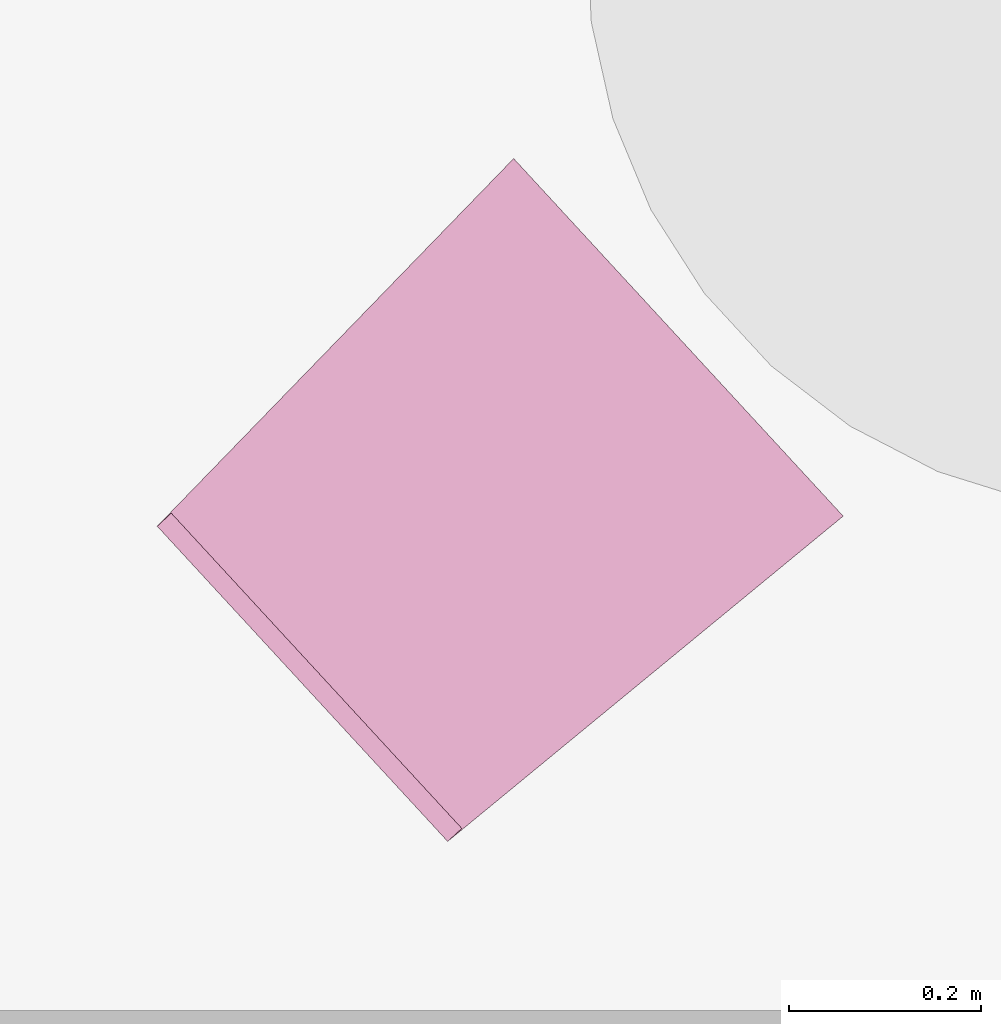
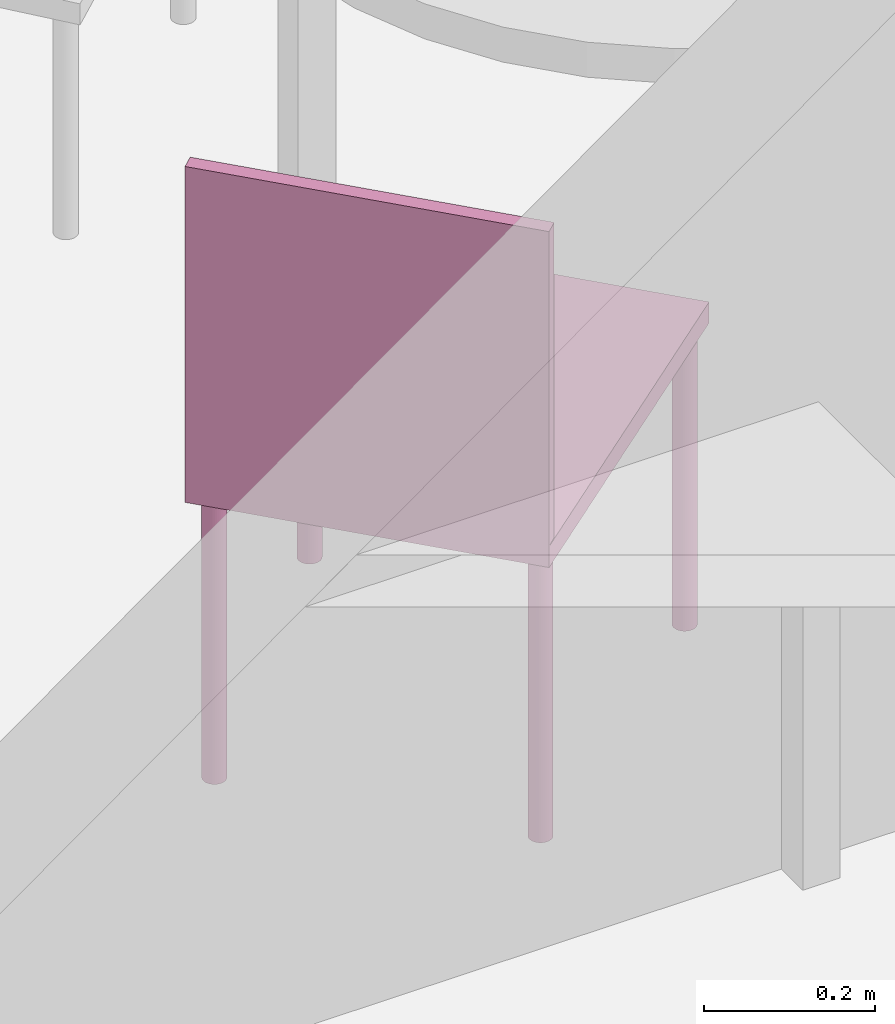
"""IFC4 building model written with IfcOpenShell, lengths in metres."""

from ifc_helpers import new_model, entity, si_unit, converted_unit, derived_unit, frame, origin, place, context, subcontext, project, spatial, faceted_brep, element, save


model = new_model("IFC4")

# Units and contexts
model_context = context("Model", 3, precision=1e-05, world=origin())
body_context = subcontext(model_context, "Body", "Model", "MODEL_VIEW")
ifc_project = project(units=[si_unit("LENGTHUNIT", "METRE"), si_unit("AREAUNIT", "SQUARE_METRE"), si_unit("VOLUMEUNIT", "CUBIC_METRE"), si_unit("MASSUNIT", "GRAM", prefix="KILO"), converted_unit("PLANEANGLEUNIT", "DEGREE", entity("IfcPlaneAngleMeasure", 0.0174532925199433), si_unit("PLANEANGLEUNIT", "RADIAN"), dimensions=[0, 0, 0, 0, 0, 0, 0]), derived_unit("THERMALTRANSMITTANCEUNIT", [(si_unit("POWERUNIT", "WATT"), 1), (si_unit("THERMODYNAMICTEMPERATUREUNIT", "KELVIN"), -1), (si_unit("LENGTHUNIT", "METRE"), -2)]), derived_unit("VOLUMETRICFLOWRATEUNIT", [(si_unit("LENGTHUNIT", "METRE"), 3), (converted_unit("TIMEUNIT", "hour", entity("IfcTimeMeasure", 3600.0), si_unit("TIMEUNIT", "SECOND"), dimensions=[0, 0, 1, 0, 0, 0, 0]), -1), (si_unit("LENGTHUNIT", "METRE"), -1)])], contexts=[model_context])

# Building, storeys
building_placement = place(None, origin())
building = spatial("IfcBuilding", under=ifc_project, at=building_placement, Name="HABITATGE PLURIFAMILIAR", CompositionType="ELEMENT")
storey_1_placement = place(building_placement, frame((0.0, 0.0, 12.27)))
storey_1 = spatial("IfcBuildingStorey", under=building, at=storey_1_placement, Name="PLANTA TERCERA", CompositionType="ELEMENT", Elevation=12.27)
storey_2_placement = place(storey_1_placement, frame((0.0, 0.0, 9.26)))
storey_2 = spatial("IfcBuildingStorey", under=storey_1, at=storey_2_placement, Name="NOU", CompositionType="PARTIAL")

# Furniture
furniture_placement = place(storey_2_placement, frame((401.244911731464, 22.7212756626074, -9.36074913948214)))
element("IfcFurniture", 1, at=furniture_placement, inside=storey_2, Name="Cadira confident_P3", context=body_context, shape_type="Brep", body=[
    faceted_brep([(0.359177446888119, 0.687513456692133, 0.0), (0.357422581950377, 0.685589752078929, 0.0), (0.356028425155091, 0.683390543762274, 0.0), (0.355037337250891, 0.680982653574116, 0.0), (0.354479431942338, 0.678439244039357, 0.0), (0.354371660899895, 0.675837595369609, 0.0), (0.354717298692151, 0.673256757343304, 0.0), (0.355505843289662, 0.67077514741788, 0.0), (0.35671333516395, 0.668468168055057, 0.0), (0.358303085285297, 0.666405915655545, 0.0), (0.3602267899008, 0.664651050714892, 0.0), (0.362425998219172, 0.663256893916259, 0.0), (0.364833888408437, 0.662265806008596, 0.0), (0.367377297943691, 0.661707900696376, 0.0), (0.369978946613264, 0.661600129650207, 0.0), (0.372559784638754, 0.661945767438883, 0.0), (0.375041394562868, 0.662734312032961, 0.0), (0.377348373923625, 0.663941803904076, 0.0), (0.379410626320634, 0.665531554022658, 0.0), (0.381165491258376, 0.66745525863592, 0.0), (0.382559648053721, 0.669654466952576, 0.0), (0.383550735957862, 0.672062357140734, 0.0), (0.384108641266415, 0.674605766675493, 0.0), (0.3842164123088, 0.677207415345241, 0.0), (0.383870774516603, 0.679788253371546, 0.0), (0.383082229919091, 0.68226986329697, 0.0), (0.381874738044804, 0.684576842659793, 0.0), (0.380284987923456, 0.686639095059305, 0.0), (0.378361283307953, 0.688393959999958, 0.0), (0.376162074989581, 0.689788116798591, 0.0), (0.373754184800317, 0.690779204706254, 0.0), (0.371210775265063, 0.691337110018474, 0.0), (0.368609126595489, 0.691444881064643, 0.0), (0.366028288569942, 0.691099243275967, 0.0), (0.363546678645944, 0.690310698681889, 0.0), (0.361239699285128, 0.689103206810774, 0.0), (0.359177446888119, 0.687513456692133, 0.448281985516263), (0.361239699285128, 0.689103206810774, 0.448281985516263), (0.363546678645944, 0.690310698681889, 0.448281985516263), (0.366028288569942, 0.691099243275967, 0.448281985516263), (0.368609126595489, 0.691444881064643, 0.448281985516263), (0.371210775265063, 0.691337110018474, 0.448281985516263), (0.373754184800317, 0.690779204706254, 0.448281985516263), (0.376162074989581, 0.689788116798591, 0.448281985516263), (0.378361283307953, 0.688393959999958, 0.448281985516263), (0.380284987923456, 0.686639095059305, 0.448281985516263), (0.381874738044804, 0.684576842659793, 0.448281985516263), (0.383082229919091, 0.68226986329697, 0.448281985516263), (0.383870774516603, 0.679788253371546, 0.448281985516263), (0.3842164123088, 0.677207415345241, 0.448281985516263), (0.384108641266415, 0.674605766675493, 0.448281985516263), (0.383550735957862, 0.672062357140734, 0.448281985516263), (0.382559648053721, 0.669654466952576, 0.448281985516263), (0.381165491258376, 0.66745525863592, 0.448281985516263), (0.379410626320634, 0.665531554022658, 0.448281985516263), (0.377348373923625, 0.663941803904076, 0.448281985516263), (0.375041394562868, 0.662734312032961, 0.448281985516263), (0.372559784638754, 0.661945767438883, 0.448281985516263), (0.369978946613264, 0.661600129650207, 0.448281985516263), (0.367377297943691, 0.661707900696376, 0.448281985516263), (0.364833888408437, 0.662265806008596, 0.448281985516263), (0.362425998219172, 0.663256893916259, 0.448281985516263), (0.3602267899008, 0.664651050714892, 0.448281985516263), (0.358303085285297, 0.666405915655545, 0.448281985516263), (0.35671333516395, 0.668468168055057, 0.448281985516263), (0.355505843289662, 0.67077514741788, 0.448281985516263), (0.354717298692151, 0.673256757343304, 0.448281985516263), (0.354371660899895, 0.675837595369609, 0.448281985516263), (0.354479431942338, 0.678439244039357, 0.448281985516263), (0.355037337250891, 0.680982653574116, 0.448281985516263), (0.356028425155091, 0.683390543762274, 0.448281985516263), (0.357422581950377, 0.685589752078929, 0.448281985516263)], [[[0, 1, 2, 3, 4, 5, 6, 7, 8, 9, 10, 11, 12, 13, 14, 15, 16, 17, 18, 19, 20, 21, 22, 23, 24, 25, 26, 27, 28, 29, 30, 31, 32, 33, 34, 35]], [[36, 37, 38, 39, 40, 41, 42, 43, 44, 45, 46, 47, 48, 49, 50, 51, 52, 53, 54, 55, 56, 57, 58, 59, 60, 61, 62, 63, 64, 65, 66, 67, 68, 69, 70, 71]], [[1, 0, 36, 71]], [[2, 1, 71, 70]], [[3, 2, 70, 69]], [[4, 3, 69, 68]], [[5, 4, 68, 67]], [[6, 5, 67, 66]], [[7, 6, 66, 65]], [[8, 7, 65, 64]], [[9, 8, 64, 63]], [[10, 9, 63, 62]], [[11, 10, 62, 61]], [[12, 11, 61, 60]], [[13, 12, 60, 59]], [[14, 13, 59, 58]], [[15, 14, 58, 57]], [[16, 15, 57, 56]], [[17, 16, 56, 55]], [[18, 17, 55, 54]], [[19, 18, 54, 53]], [[20, 19, 53, 52]], [[21, 20, 52, 51]], [[22, 21, 51, 50]], [[23, 22, 50, 49]], [[24, 23, 49, 48]], [[25, 24, 48, 47]], [[26, 25, 47, 46]], [[27, 26, 46, 45]], [[28, 27, 45, 44]], [[29, 28, 44, 43]], [[30, 29, 43, 42]], [[31, 30, 42, 41]], [[32, 31, 41, 40]], [[33, 32, 40, 39]], [[34, 33, 39, 38]], [[35, 34, 38, 37]], [[0, 35, 37, 36]]], orient=[[False], [False], [False], [False], [False], [False], [False], [False], [False], [False], [False], [False], [False], [False], [False], [False], [False], [False], [False], [False], [False], [False], [False], [False], [False], [False], [False], [False], [False], [False], [False], [False], [False], [False], [False], [False], [False], [False]]),
    faceted_brep([(0.0378673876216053, 0.353830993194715, 0.0), (0.0361125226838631, 0.351907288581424, 0.0), (0.0347183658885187, 0.349708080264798, 0.0), (0.033727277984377, 0.347300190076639, 0.0), (0.033169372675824, 0.34475678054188, 0.0), (0.0330616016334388, 0.342155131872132, 0.0), (0.0334072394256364, 0.339574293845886, 0.0), (0.0341957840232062, 0.337092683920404, 0.0), (0.0354032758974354, 0.33478570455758, 0.0), (0.036993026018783, 0.332723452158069, 0.0), (0.0389167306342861, 0.330968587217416, 0.0), (0.0411159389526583, 0.329574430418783, 0.0), (0.0435238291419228, 0.32858334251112, 0.0), (0.0460672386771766, 0.328025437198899, 0.0), (0.0486688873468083, 0.327917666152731, 0.0), (0.0512497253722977, 0.328263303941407, 0.0), (0.0537313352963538, 0.329051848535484, 0.0), (0.0560383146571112, 0.33025934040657, 0.0), (0.0581005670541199, 0.33184909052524, 0.0), (0.0598554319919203, 0.333772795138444, 0.0), (0.0612495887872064, 0.335972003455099, 0.0), (0.0622406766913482, 0.338379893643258, 0.0), (0.0627985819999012, 0.340923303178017, 0.0), (0.0629063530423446, 0.343524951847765, 0.0), (0.0625607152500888, 0.346105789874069, 0.0), (0.0617721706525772, 0.348587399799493, 0.0), (0.0605646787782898, 0.350894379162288, 0.0), (0.0589749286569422, 0.352956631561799, 0.0), (0.0570512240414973, 0.354711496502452, 0.0), (0.0548520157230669, 0.356105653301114, 0.0), (0.0524441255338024, 0.357096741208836, 0.0), (0.0499007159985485, 0.357654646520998, 0.0), (0.0472990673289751, 0.357762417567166, 0.0), (0.0447182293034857, 0.35741677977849, 0.0), (0.0422366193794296, 0.356628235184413, 0.0), (0.039929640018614, 0.355420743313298, 0.0), (0.0378673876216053, 0.353830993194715, 0.448281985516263), (0.039929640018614, 0.355420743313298, 0.448281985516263), (0.0422366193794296, 0.356628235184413, 0.448281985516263), (0.0447182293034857, 0.35741677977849, 0.448281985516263), (0.0472990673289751, 0.357762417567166, 0.448281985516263), (0.0499007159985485, 0.357654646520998, 0.448281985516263), (0.0524441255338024, 0.357096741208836, 0.448281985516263), (0.0548520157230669, 0.356105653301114, 0.448281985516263), (0.0570512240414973, 0.354711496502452, 0.448281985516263), (0.0589749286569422, 0.352956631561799, 0.448281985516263), (0.0605646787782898, 0.350894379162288, 0.448281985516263), (0.0617721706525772, 0.348587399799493, 0.448281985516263), (0.0625607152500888, 0.346105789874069, 0.448281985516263), (0.0629063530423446, 0.343524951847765, 0.448281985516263), (0.0627985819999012, 0.340923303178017, 0.448281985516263), (0.0622406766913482, 0.338379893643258, 0.448281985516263), (0.0612495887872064, 0.335972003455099, 0.448281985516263), (0.0598554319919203, 0.333772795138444, 0.448281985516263), (0.0581005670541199, 0.33184909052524, 0.448281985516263), (0.0560383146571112, 0.33025934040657, 0.448281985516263), (0.0537313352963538, 0.329051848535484, 0.448281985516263), (0.0512497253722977, 0.328263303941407, 0.448281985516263), (0.0486688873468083, 0.327917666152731, 0.448281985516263), (0.0460672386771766, 0.328025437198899, 0.448281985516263), (0.0435238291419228, 0.32858334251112, 0.448281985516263), (0.0411159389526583, 0.329574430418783, 0.448281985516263), (0.0389167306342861, 0.330968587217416, 0.448281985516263), (0.036993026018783, 0.332723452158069, 0.448281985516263), (0.0354032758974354, 0.33478570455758, 0.448281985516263), (0.0341957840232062, 0.337092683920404, 0.448281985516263), (0.0334072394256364, 0.339574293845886, 0.448281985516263), (0.0330616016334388, 0.342155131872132, 0.448281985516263), (0.033169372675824, 0.34475678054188, 0.448281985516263), (0.033727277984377, 0.347300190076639, 0.448281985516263), (0.0347183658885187, 0.349708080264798, 0.448281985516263), (0.0361125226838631, 0.351907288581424, 0.448281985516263)], [[[0, 1, 2, 3, 4, 5, 6, 7, 8, 9, 10, 11, 12, 13, 14, 15, 16, 17, 18, 19, 20, 21, 22, 23, 24, 25, 26, 27, 28, 29, 30, 31, 32, 33, 34, 35]], [[36, 37, 38, 39, 40, 41, 42, 43, 44, 45, 46, 47, 48, 49, 50, 51, 52, 53, 54, 55, 56, 57, 58, 59, 60, 61, 62, 63, 64, 65, 66, 67, 68, 69, 70, 71]], [[1, 0, 36, 71]], [[2, 1, 71, 70]], [[3, 2, 70, 69]], [[4, 3, 69, 68]], [[5, 4, 68, 67]], [[6, 5, 67, 66]], [[7, 6, 66, 65]], [[8, 7, 65, 64]], [[9, 8, 64, 63]], [[10, 9, 63, 62]], [[11, 10, 62, 61]], [[12, 11, 61, 60]], [[13, 12, 60, 59]], [[14, 13, 59, 58]], [[15, 14, 58, 57]], [[16, 15, 57, 56]], [[17, 16, 56, 55]], [[18, 17, 55, 54]], [[19, 18, 54, 53]], [[20, 19, 53, 52]], [[21, 20, 52, 51]], [[22, 21, 51, 50]], [[23, 22, 50, 49]], [[24, 23, 49, 48]], [[25, 24, 48, 47]], [[26, 25, 47, 46]], [[27, 26, 46, 45]], [[28, 27, 45, 44]], [[29, 28, 44, 43]], [[30, 29, 43, 42]], [[31, 30, 42, 41]], [[32, 31, 41, 40]], [[33, 32, 40, 39]], [[34, 33, 39, 38]], [[35, 34, 38, 37]], [[0, 35, 37, 36]]], orient=[[False], [False], [False], [False], [False], [False], [False], [False], [False], [False], [False], [False], [False], [False], [False], [False], [False], [False], [False], [False], [False], [False], [False], [False], [False], [False], [False], [False], [False], [False], [False], [False], [False], [False], [False], [False], [False], [False]]),
    faceted_brep([(0.670904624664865, 0.349244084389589, 0.0), (0.669149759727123, 0.347320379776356, 0.0), (0.667755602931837, 0.34512117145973, 0.0), (0.666764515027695, 0.342713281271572, 0.0), (0.666206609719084, 0.340169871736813, 0.0), (0.666098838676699, 0.337568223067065, 0.0), (0.666444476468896, 0.33498738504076, 0.0), (0.667233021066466, 0.332505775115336, 0.0), (0.668440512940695, 0.330198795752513, 0.0), (0.670030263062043, 0.328136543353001, 0.0), (0.671953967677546, 0.326381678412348, 0.0), (0.674153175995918, 0.324987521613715, 0.0), (0.676561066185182, 0.323996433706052, 0.0), (0.679104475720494, 0.323438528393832, 0.0), (0.681706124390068, 0.323330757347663, 0.0), (0.684286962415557, 0.323676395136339, 0.0), (0.686768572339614, 0.324464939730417, 0.0), (0.689075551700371, 0.325672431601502, 0.0), (0.691137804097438, 0.327262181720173, 0.0), (0.69289266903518, 0.329185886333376, 0.0), (0.694286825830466, 0.331385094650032, 0.0), (0.695277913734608, 0.33379298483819, 0.0), (0.695835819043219, 0.336336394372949, 0.0), (0.695943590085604, 0.338938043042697, 0.0), (0.695597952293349, 0.341518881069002, 0.0), (0.694809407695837, 0.344000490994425, 0.0), (0.693601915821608, 0.34630747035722, 0.0), (0.692012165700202, 0.348369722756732, 0.0), (0.690088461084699, 0.350124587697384, 0.0), (0.687889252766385, 0.351518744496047, 0.0), (0.685481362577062, 0.35250983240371, 0.0), (0.682937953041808, 0.35306773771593, 0.0), (0.680336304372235, 0.353175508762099, 0.0), (0.677755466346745, 0.352829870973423, 0.0), (0.675273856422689, 0.352041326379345, 0.0), (0.672966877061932, 0.35083383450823, 0.0), (0.670904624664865, 0.349244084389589, 0.448281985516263), (0.672966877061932, 0.35083383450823, 0.448281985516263), (0.675273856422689, 0.352041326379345, 0.448281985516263), (0.677755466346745, 0.352829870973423, 0.448281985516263), (0.680336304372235, 0.353175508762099, 0.448281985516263), (0.682937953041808, 0.35306773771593, 0.448281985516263), (0.685481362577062, 0.35250983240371, 0.448281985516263), (0.687889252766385, 0.351518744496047, 0.448281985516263), (0.690088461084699, 0.350124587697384, 0.448281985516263), (0.692012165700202, 0.348369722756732, 0.448281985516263), (0.693601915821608, 0.34630747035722, 0.448281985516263), (0.694809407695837, 0.344000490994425, 0.448281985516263), (0.695597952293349, 0.341518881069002, 0.448281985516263), (0.695943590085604, 0.338938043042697, 0.448281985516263), (0.695835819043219, 0.336336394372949, 0.448281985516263), (0.695277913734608, 0.33379298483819, 0.448281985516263), (0.694286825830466, 0.331385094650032, 0.448281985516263), (0.69289266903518, 0.329185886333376, 0.448281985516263), (0.691137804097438, 0.327262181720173, 0.448281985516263), (0.689075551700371, 0.325672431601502, 0.448281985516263), (0.686768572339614, 0.324464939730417, 0.448281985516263), (0.684286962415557, 0.323676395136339, 0.448281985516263), (0.681706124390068, 0.323330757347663, 0.448281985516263), (0.679104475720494, 0.323438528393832, 0.448281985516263), (0.676561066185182, 0.323996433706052, 0.448281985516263), (0.674153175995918, 0.324987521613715, 0.448281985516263), (0.671953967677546, 0.326381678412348, 0.448281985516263), (0.670030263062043, 0.328136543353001, 0.448281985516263), (0.668440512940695, 0.330198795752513, 0.448281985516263), (0.667233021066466, 0.332505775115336, 0.448281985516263), (0.666444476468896, 0.33498738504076, 0.448281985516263), (0.666098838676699, 0.337568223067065, 0.448281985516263), (0.666206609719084, 0.340169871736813, 0.448281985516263), (0.666764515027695, 0.342713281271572, 0.448281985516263), (0.667755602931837, 0.34512117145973, 0.448281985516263), (0.669149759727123, 0.347320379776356, 0.448281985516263)], [[[0, 1, 2, 3, 4, 5, 6, 7, 8, 9, 10, 11, 12, 13, 14, 15, 16, 17, 18, 19, 20, 21, 22, 23, 24, 25, 26, 27, 28, 29, 30, 31, 32, 33, 34, 35]], [[36, 37, 38, 39, 40, 41, 42, 43, 44, 45, 46, 47, 48, 49, 50, 51, 52, 53, 54, 55, 56, 57, 58, 59, 60, 61, 62, 63, 64, 65, 66, 67, 68, 69, 70, 71]], [[1, 0, 36, 71]], [[2, 1, 71, 70]], [[3, 2, 70, 69]], [[4, 3, 69, 68]], [[5, 4, 68, 67]], [[6, 5, 67, 66]], [[7, 6, 66, 65]], [[8, 7, 65, 64]], [[9, 8, 64, 63]], [[10, 9, 63, 62]], [[11, 10, 62, 61]], [[12, 11, 61, 60]], [[13, 12, 60, 59]], [[14, 13, 59, 58]], [[15, 14, 58, 57]], [[16, 15, 57, 56]], [[17, 16, 56, 55]], [[18, 17, 55, 54]], [[19, 18, 54, 53]], [[20, 19, 53, 52]], [[21, 20, 52, 51]], [[22, 21, 51, 50]], [[23, 22, 50, 49]], [[24, 23, 49, 48]], [[25, 24, 48, 47]], [[26, 25, 47, 46]], [[27, 26, 46, 45]], [[28, 27, 45, 44]], [[29, 28, 44, 43]], [[30, 29, 43, 42]], [[31, 30, 42, 41]], [[32, 31, 41, 40]], [[33, 32, 40, 39]], [[34, 33, 39, 38]], [[35, 34, 38, 37]], [[0, 35, 37, 36]]], orient=[[False], [False], [False], [False], [False], [False], [False], [False], [False], [False], [False], [False], [False], [False], [False], [False], [False], [False], [False], [False], [False], [False], [False], [False], [False], [False], [False], [False], [False], [False], [False], [False], [False], [False], [False], [False], [False], [False]]),
    faceted_brep([(0.308934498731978, 0.0596837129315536, 0.0), (0.307179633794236, 0.0577600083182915, 0.0), (0.305785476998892, 0.0555608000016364, 0.0), (0.30479438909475, 0.0531529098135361, 0.0), (0.304236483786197, 0.0506095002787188, 0.0), (0.304128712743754, 0.0480078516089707, 0.0), (0.304474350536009, 0.0454270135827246, 0.0), (0.305262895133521, 0.0429454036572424, 0.0), (0.306470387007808, 0.0406384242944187, 0.0), (0.308060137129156, 0.038576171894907, 0.0), (0.309983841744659, 0.0368213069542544, 0.0), (0.312183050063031, 0.0354271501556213, 0.0), (0.314590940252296, 0.034436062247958, 0.0), (0.31713434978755, 0.0338781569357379, 0.0), (0.319735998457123, 0.0337703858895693, 0.0), (0.322316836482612, 0.0341160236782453, 0.0), (0.324798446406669, 0.0349045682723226, 0.0), (0.327105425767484, 0.0361120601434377, 0.0), (0.329167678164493, 0.0377018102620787, 0.0), (0.330922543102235, 0.0396255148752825, 0.0), (0.332316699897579, 0.0418247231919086, 0.0), (0.333307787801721, 0.0442326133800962, 0.0), (0.333865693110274, 0.0467760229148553, 0.0), (0.333973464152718, 0.0493776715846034, 0.0), (0.333627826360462, 0.0519585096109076, 0.0), (0.332839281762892, 0.0544401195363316, 0.0), (0.331631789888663, 0.0567470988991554, 0.0), (0.330042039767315, 0.0588093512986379, 0.0), (0.328118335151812, 0.0605642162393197, 0.0), (0.32591912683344, 0.0619583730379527, 0.0), (0.323511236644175, 0.0629494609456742, 0.0), (0.320967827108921, 0.0635073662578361, 0.0), (0.31836617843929, 0.0636151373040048, 0.0), (0.3157853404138, 0.063269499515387, 0.0), (0.313303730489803, 0.0624809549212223, 0.0), (0.310996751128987, 0.0612734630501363, 0.0), (0.308934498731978, 0.0596837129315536, 0.448281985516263), (0.310996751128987, 0.0612734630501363, 0.448281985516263), (0.313303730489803, 0.0624809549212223, 0.448281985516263), (0.3157853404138, 0.063269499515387, 0.448281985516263), (0.31836617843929, 0.0636151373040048, 0.448281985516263), (0.320967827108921, 0.0635073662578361, 0.448281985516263), (0.323511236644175, 0.0629494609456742, 0.448281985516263), (0.32591912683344, 0.0619583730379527, 0.448281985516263), (0.328118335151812, 0.0605642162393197, 0.448281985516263), (0.330042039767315, 0.0588093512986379, 0.448281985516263), (0.331631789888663, 0.0567470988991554, 0.448281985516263), (0.332839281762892, 0.0544401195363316, 0.448281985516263), (0.333627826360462, 0.0519585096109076, 0.448281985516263), (0.333973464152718, 0.0493776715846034, 0.448281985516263), (0.333865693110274, 0.0467760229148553, 0.448281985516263), (0.333307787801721, 0.0442326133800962, 0.448281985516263), (0.332316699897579, 0.0418247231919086, 0.448281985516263), (0.330922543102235, 0.0396255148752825, 0.448281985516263), (0.329167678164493, 0.0377018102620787, 0.448281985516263), (0.327105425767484, 0.0361120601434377, 0.448281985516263), (0.324798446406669, 0.0349045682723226, 0.448281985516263), (0.322316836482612, 0.0341160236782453, 0.448281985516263), (0.319735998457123, 0.0337703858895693, 0.448281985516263), (0.31713434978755, 0.0338781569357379, 0.448281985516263), (0.314590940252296, 0.034436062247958, 0.448281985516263), (0.312183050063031, 0.0354271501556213, 0.448281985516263), (0.309983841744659, 0.0368213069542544, 0.448281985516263), (0.308060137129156, 0.038576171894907, 0.448281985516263), (0.306470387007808, 0.0406384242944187, 0.448281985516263), (0.305262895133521, 0.0429454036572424, 0.448281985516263), (0.304474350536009, 0.0454270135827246, 0.448281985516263), (0.304128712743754, 0.0480078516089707, 0.448281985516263), (0.304236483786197, 0.0506095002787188, 0.448281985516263), (0.30479438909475, 0.0531529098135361, 0.448281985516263), (0.305785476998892, 0.0555608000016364, 0.448281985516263), (0.307179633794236, 0.0577600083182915, 0.448281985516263)], [[[0, 1, 2, 3, 4, 5, 6, 7, 8, 9, 10, 11, 12, 13, 14, 15, 16, 17, 18, 19, 20, 21, 22, 23, 24, 25, 26, 27, 28, 29, 30, 31, 32, 33, 34, 35]], [[36, 37, 38, 39, 40, 41, 42, 43, 44, 45, 46, 47, 48, 49, 50, 51, 52, 53, 54, 55, 56, 57, 58, 59, 60, 61, 62, 63, 64, 65, 66, 67, 68, 69, 70, 71]], [[1, 0, 36, 71]], [[2, 1, 71, 70]], [[3, 2, 70, 69]], [[4, 3, 69, 68]], [[5, 4, 68, 67]], [[6, 5, 67, 66]], [[7, 6, 66, 65]], [[8, 7, 65, 64]], [[9, 8, 64, 63]], [[10, 9, 63, 62]], [[11, 10, 62, 61]], [[12, 11, 61, 60]], [[13, 12, 60, 59]], [[14, 13, 59, 58]], [[15, 14, 58, 57]], [[16, 15, 57, 56]], [[17, 16, 56, 55]], [[18, 17, 55, 54]], [[19, 18, 54, 53]], [[20, 19, 53, 52]], [[21, 20, 52, 51]], [[22, 21, 51, 50]], [[23, 22, 50, 49]], [[24, 23, 49, 48]], [[25, 24, 48, 47]], [[26, 25, 47, 46]], [[27, 26, 46, 45]], [[28, 27, 45, 44]], [[29, 28, 44, 43]], [[30, 29, 43, 42]], [[31, 30, 42, 41]], [[32, 31, 41, 40]], [[33, 32, 40, 39]], [[34, 33, 39, 38]], [[35, 34, 38, 37]], [[0, 35, 37, 36]]], orient=[[False], [False], [False], [False], [False], [False], [False], [False], [False], [False], [False], [False], [False], [False], [False], [False], [False], [False], [False], [False], [False], [False], [False], [False], [False], [False], [False], [False], [False], [False], [False], [False], [False], [False], [False], [False], [False], [False]]),
    faceted_brep([(0.302588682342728, 0.0, 0.418281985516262), (0.714581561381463, 0.33887010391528, 0.418281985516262), (0.371332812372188, 0.711344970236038, 0.418281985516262), (0.0, 0.328352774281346, 0.418281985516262), (0.714581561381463, 0.33887010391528, 0.448281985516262), (0.302588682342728, 0.0, 0.448281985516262), (0.0, 0.328352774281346, 0.448281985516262), (0.371332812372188, 0.711344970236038, 0.448281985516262)], [[[0, 1, 2, 3]], [[4, 5, 6, 7]], [[1, 0, 5, 4]], [[2, 1, 4, 7]], [[3, 2, 7, 6]], [[0, 3, 6, 5]]], orient=[[False], [False], [False], [False], [False], [False]]),
    faceted_brep([(0.317296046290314, 0.0135533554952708, 0.448281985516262), (0.0147073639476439, 0.341906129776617, 0.448281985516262), (0.0, 0.328352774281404, 0.448281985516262), (0.302588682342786, 0.0, 0.448281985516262), (0.0147073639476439, 0.341906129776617, 0.89828198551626), (0.317296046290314, 0.0135533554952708, 0.89828198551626), (0.302588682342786, 0.0, 0.89828198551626), (0.0, 0.328352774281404, 0.89828198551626)], [[[0, 1, 2, 3]], [[4, 5, 6, 7]], [[1, 0, 5, 4]], [[2, 1, 4, 7]], [[3, 2, 7, 6]], [[0, 3, 6, 5]]], orient=[[False], [False], [False], [False], [False], [False]]),
])

save(model, "model.ifc")
